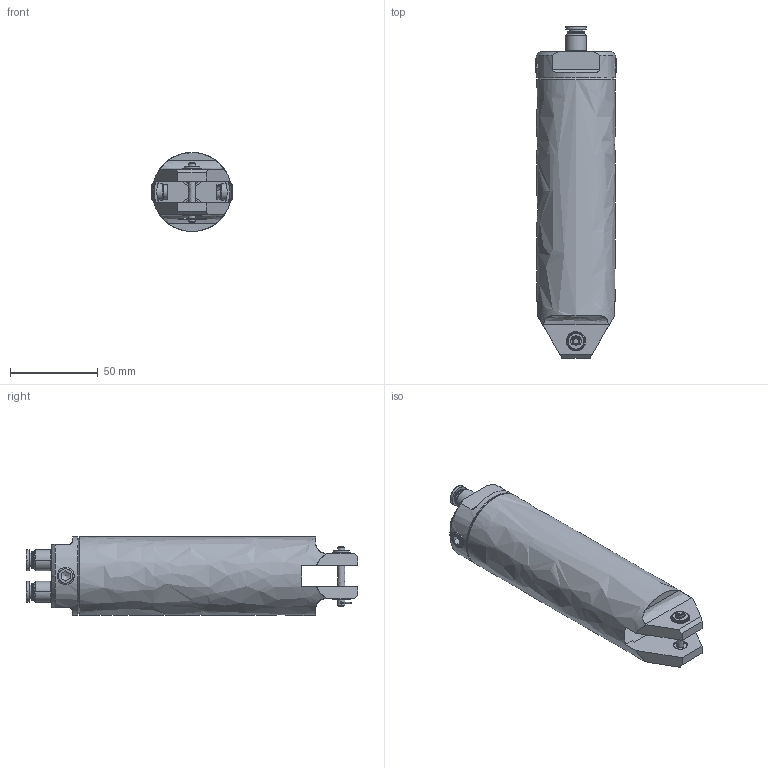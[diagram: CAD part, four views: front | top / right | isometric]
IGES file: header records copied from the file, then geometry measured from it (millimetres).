
Global section: file name: \\Kikaku_server01\kikaku\; native system: Rhinoceros ( Feb 22 2008 ); preprocessor: Trout Lake IGES 012 Feb 22 2008; date: 081001.022632; units: millimetre
Bounding box: 45.9 x 189.05 x 45 mm (x, y, z)
Surface area: 33418 mm2 (no closed solid volume)
Topology: 0 solids, 0 shells, 255 faces, 1391 edges, 1378 vertices
Faces by surface type: bspline 255
